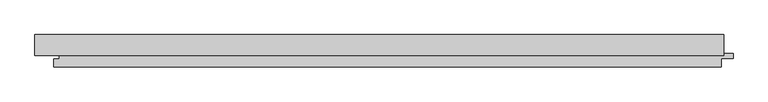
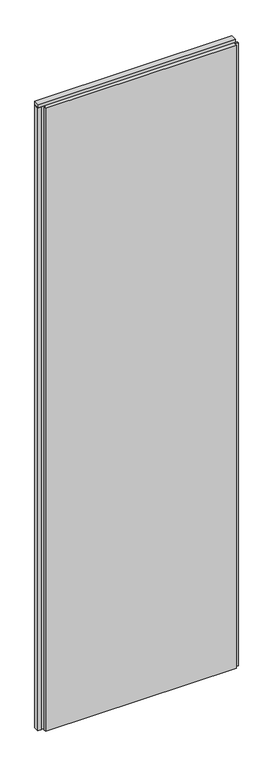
"""IFC4 building model written with IfcOpenShell, lengths in millimetres: plate geometry, Trimo_Qbiss Screen_Normal Panel-VERTICAL : HR - FB-F."""

import ifcopenshell
import ifcopenshell.guid

model = None  # the IFC model being written
_history = None  # IfcOwnerHistory: only IFC2X3 demands one
_inside = {}  # id of a spatial element -> (the spatial element, [elements in it])
_under = {}  # id of a project, library or spatial element -> (it, [spatial elements below it])
_declared = {}  # id of a project -> (the project, [libraries it declares])
_typed = {}  # id of a type object -> (the type object, [elements of that type])
_made_of = {}  # id of a material, layer set ... -> (it, [elements and type objects made of it])


def new_model(schema):
    """Start an empty IFC model of exactly this schema.

    Asked for "IFC4X3", IfcOpenShell would pick the latest addendum, in which some entities
    have other attributes; the version numbers below select the first issue.
    IFC2X3 requires an IfcOwnerHistory on every rooted entity: one is made here for all.
    """
    global model, _history
    if schema == "IFC4X3":
        model = ifcopenshell.file(schema_version=(4, 3, 0, 0))
    else:
        model = ifcopenshell.file(schema=schema)
    _inside.clear()
    _under.clear()
    _declared.clear()
    _typed.clear()
    _made_of.clear()
    _history = None
    if model.schema == "IFC2X3":
        org = make("IfcOrganization", Name="unknown")
        user = make(
            "IfcPersonAndOrganization",
            ThePerson=make("IfcPerson", FamilyName="unknown"),
            TheOrganization=org,
        )
        app = make(
            "IfcApplication",
            ApplicationDeveloper=org,
            Version="unknown",
            ApplicationFullName="unknown",
            ApplicationIdentifier="unknown",
        )
        _history = make(
            "IfcOwnerHistory",
            OwningUser=user,
            OwningApplication=app,
            ChangeAction="ADDED",
            CreationDate=0,
        )
    return model


def make(cls, **values):
    """One entity of the class cls with the attributes given. An attribute that is None is left unset."""
    return model.create_entity(
        cls, **{name: value for name, value in values.items() if value is not None}
    )


def rooted(cls, **values):
    """An entity with a GlobalId (a new one), such as an element, a storey or a relation."""
    return make(cls, GlobalId=ifcopenshell.guid.new(), OwnerHistory=_history, **values)


def si_unit(unit_type, name, prefix=None):
    """IfcSIUnit, for example si_unit("LENGTHUNIT", "METRE", prefix="MILLI")."""
    return make("IfcSIUnit", UnitType=unit_type, Prefix=prefix, Name=name)


def assignment(units):
    """IfcUnitAssignment: the units of a project."""
    return None if units is None else make("IfcUnitAssignment", Units=units)


def point(xyz):
    """IfcCartesianPoint."""
    return None if xyz is None else make("IfcCartesianPoint", Coordinates=xyz)


def direction(xyz):
    """IfcDirection."""
    return None if xyz is None else make("IfcDirection", DirectionRatios=xyz)


def frame(location, z_axis=None, x_axis=None):
    """IfcAxis2Placement3D, a coordinate frame: its origin and axes. An axis left out is left unset."""
    return make(
        "IfcAxis2Placement3D",
        Location=point(location),
        Axis=direction(z_axis),
        RefDirection=direction(x_axis),
    )


def origin():
    """The frame at (0, 0, 0) with its axes left unset."""
    return frame((0.0, 0.0, 0.0))


def place(relative_to, where):
    """IfcLocalPlacement: puts the frame where relative to a parent placement (None: the world)."""
    return make(
        "IfcLocalPlacement", PlacementRelTo=relative_to, RelativePlacement=where
    )


def context(
    kind, dimensions, precision=None, world=None, true_north=None, identifier=None
):
    """IfcGeometricRepresentationContext, for example the 3D "Model" context."""
    return make(
        "IfcGeometricRepresentationContext",
        ContextIdentifier=identifier,
        ContextType=kind,
        CoordinateSpaceDimension=dimensions,
        Precision=precision,
        WorldCoordinateSystem=world,
        TrueNorth=true_north,
    )


def project(units=None, contexts=None):
    """IfcProject with its units and contexts."""
    return rooted(
        "IfcProject",
        Name="project",
        RepresentationContexts=contexts,
        UnitsInContext=assignment(units),
    )


def spatial(cls, under=None, at=None, **own):
    """A site, building, storey or space (cls), placed at a placement, below another one or the project."""
    s = rooted(cls, ObjectPlacement=at, **own)
    if under is not None:
        _under.setdefault(under.id(), (under, []))[1].append(s)
    return s


def polyline(points):
    """IfcPolyline through the points."""
    return make("IfcPolyline", Points=[point(p) for p in points])


def outline(outer, holes=None, kind="AREA"):
    """IfcArbitraryClosedProfileDef: a profile drawn as a closed curve; with holes, ...WithVoids."""
    if holes is None:
        return make("IfcArbitraryClosedProfileDef", ProfileType=kind, OuterCurve=outer)
    return make(
        "IfcArbitraryProfileDefWithVoids",
        ProfileType=kind,
        OuterCurve=outer,
        InnerCurves=holes,
    )


def extrude(swept, where, along, depth):
    """IfcExtrudedAreaSolid: the profile swept, set in the frame where, extruded along a direction by depth."""
    return make(
        "IfcExtrudedAreaSolid",
        SweptArea=swept,
        Position=where,
        ExtrudedDirection=direction(along),
        Depth=depth,
    )


def shape(context_of_items, identifier, shape_type, items):
    """IfcShapeRepresentation: the items that make up one representation, for example the "Body"."""
    return make(
        "IfcShapeRepresentation",
        ContextOfItems=context_of_items,
        RepresentationIdentifier=identifier,
        RepresentationType=shape_type,
        Items=items,
    )


def source(mapping_origin, context_of_items, identifier, shape_type, items):
    """IfcRepresentationMap: a shape defined once, which mapped items show again and again."""
    return make(
        "IfcRepresentationMap",
        MappingOrigin=mapping_origin,
        MappedRepresentation=shape(context_of_items, identifier, shape_type, items),
    )


def transform(
    local_origin,
    x_axis=None,
    y_axis=None,
    z_axis=None,
    scale=None,
    scale2=None,
    scale3=None,
    uniform=True,
):
    """IfcCartesianTransformationOperator3D, or its non-uniform kind. x_axis, y_axis, z_axis: its Axis1, 2, 3."""
    if uniform:
        return make(
            "IfcCartesianTransformationOperator3D",
            Axis1=direction(x_axis),
            Axis2=direction(y_axis),
            LocalOrigin=point(local_origin),
            Scale=scale,
            Axis3=direction(z_axis),
        )
    return make(
        "IfcCartesianTransformationOperator3DnonUniform",
        Axis1=direction(x_axis),
        Axis2=direction(y_axis),
        LocalOrigin=point(local_origin),
        Scale=scale,
        Axis3=direction(z_axis),
        Scale2=scale2,
        Scale3=scale3,
    )


def mapped(mapping_source, mapping_target):
    """IfcMappedItem: shows the shape of a source again, moved by a transform."""
    return make(
        "IfcMappedItem", MappingSource=mapping_source, MappingTarget=mapping_target
    )


def made_of(thing, what):
    """Note that an element or type object is made of a material, layer set ...; save() writes the relation."""
    if what is not None:
        _made_of.setdefault(what.id(), (what, []))[1].append(thing)
    return thing


def element(
    cls,
    number,
    at=None,
    inside=None,
    cuts=None,
    type_object=None,
    material=None,
    context=None,
    identifier="Body",
    shape_type=None,
    held_by="IfcProductDefinitionShape",
    body=None,
    shapes=None,
    **own,
):
    """One element of the class cls, such as IfcWall. Its Tag is "e" and its number.

    at: its placement. inside: the storey or other place that contains it. cuts: it is an
    opening in that element (IfcRelVoidsElement). A single representation is given by context,
    identifier, shape_type and body (its items); several are given by shapes. held_by: the class
    of the entity that holds the representations. save() writes the other relations.
    """
    e = rooted(cls, Tag="e%d" % number, ObjectPlacement=at, **own)
    if body is not None:
        shapes = [shape(context, identifier, shape_type, body)]
    if shapes is not None:
        e.Representation = make(held_by, Representations=shapes)
    if inside is not None:
        _inside.setdefault(inside.id(), (inside, []))[1].append(e)
    if cuts is not None:
        rooted(
            "IfcRelVoidsElement", RelatingBuildingElement=cuts, RelatedOpeningElement=e
        )
    if type_object is not None:
        _typed.setdefault(type_object.id(), (type_object, []))[1].append(e)
    return made_of(e, material)


def aggregate(whole, parts):
    """IfcRelAggregates: a whole, such as a stair, and the parts it consists of."""
    return rooted("IfcRelAggregates", RelatingObject=whole, RelatedObjects=parts)


def save(model, path):
    """Write the relations noted so far, then the file.

    IfcRelAggregates (storeys below a building ...), IfcRelContainedInSpatialStructure (elements
    in a storey), IfcRelDefinesByType, IfcRelAssociatesMaterial and IfcRelDeclares: one each for
    every whole, place, type object, material and project.
    """
    for whole, parts in _under.values():
        aggregate(whole, parts)
    for where, things in _inside.values():
        rooted(
            "IfcRelContainedInSpatialStructure",
            RelatedElements=things,
            RelatingStructure=where,
        )
    for kind, things in _typed.values():
        rooted("IfcRelDefinesByType", RelatedObjects=things, RelatingType=kind)
    for what, things in _made_of.values():
        rooted("IfcRelAssociatesMaterial", RelatedObjects=things, RelatingMaterial=what)
    for by, libraries in _declared.values():
        rooted("IfcRelDeclares", RelatingContext=by, RelatedDefinitions=libraries)
    model.write(path)


def plate_7b32c614(model_context):
    return source(origin(), model_context, "Body", "SweptSolid", [
        extrude(outline(polyline([(-571.0, 97.0), (-571.0, 126.0), (-552.0, 126.0), (-552.0, 97.0), (-571.0, 97.0)])), frame((0.0, 0.0, 12.5), z_axis=(0.0, 0.0, 1.0), x_axis=(1.0, 0.0, 0.0)), (0.0, 0.0, 1.0), 3575.0),
        extrude(outline(polyline([(-571.0, 93.9), (-571.0, 126.0), (500.0, 126.0), (500.0, 93.9), (-571.0, 93.9)])), frame((0.0, 0.0, 3590.5), z_axis=(0.0, 0.0, 1.0), x_axis=(1.0, 0.0, 0.0)), (0.0, 0.0, 1.0), 19.0),
        extrude(outline(polyline([(496.0, 97.0), (514.5, 97.0), (514.5, 89.0), (496.0, 89.0), (496.0, 76.0), (-542.0, 76.0), (-542.0, 88.0), (-533.5, 88.0), (-533.5, 98.0), (-549.0, 98.0), (-549.0, 126.0), (496.0, 126.0), (496.0, 97.0)])), frame((0.0, 0.0, 12.5), z_axis=(0.0, 0.0, 1.0), x_axis=(1.0, 0.0, 0.0)), (0.0, 0.0, 1.0), 3575.0),
    ])


if __name__ == "__main__":
    model = new_model("IFC4")
    model_context = context("Model", 3, world=origin())
    ifc_project = project(units=[si_unit("LENGTHUNIT", "METRE", prefix="MILLI")], contexts=[model_context])
    site = spatial("IfcSite", under=ifc_project)
    building = spatial("IfcBuilding", under=site)
    placement = place(None, origin())
    plate_shape = plate_7b32c614(model_context)
    element("IfcPlate", 1, ObjectType="Trimo_Qbiss Screen_Normal Panel-VERTICAL : HR - FB-F", at=placement, inside=building, context=model_context, shape_type="MappedRepresentation", body=[
        mapped(plate_shape, transform((0.0, 0.0, 0.0), x_axis=(1.0, 0.0, 0.0), y_axis=(0.0, 1.0, 0.0), z_axis=(0.0, 0.0, 1.0))),
    ])
    save(model, "model.ifc")
